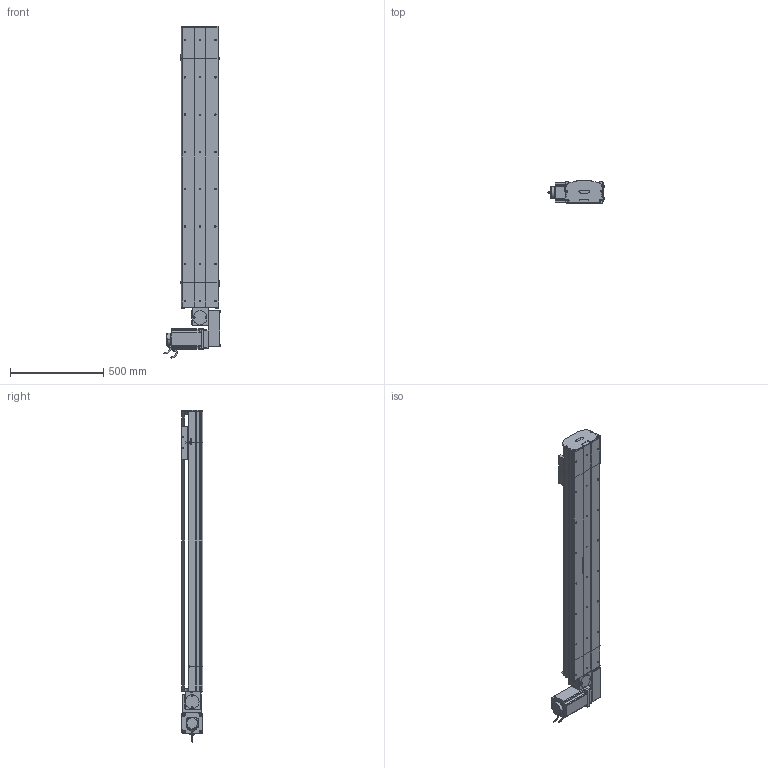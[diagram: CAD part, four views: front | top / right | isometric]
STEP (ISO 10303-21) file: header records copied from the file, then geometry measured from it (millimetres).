
FILE_DESCRIPTION (( 'STEP AP214' ), '1' );
FILE_NAME ('D20 TBH LH S1200.STEP', '2010-07-01T07:14:01', ( 'Conseil Régional Haute-Normandie' ), ( 'Conseil Régional Haute-Normandie' ), 'SwSTEP 2.0', 'SolidWorks 2010', '' );
FILE_SCHEMA (( 'AUTOMOTIVE_DESIGN' ));
Length unit declared in the file: millimetre
Products named in the file (40): vis M5 L12_Default; vis M5 L5_Default; couroie_Default; guide D20B; Chariot D20B; vis M5 L25_Default; chariot D20B_Default; vis M8 L12_Default; Renvoi LH D20_Default; clavette; vis M5 L70_Default; Plaque racord D20LH_Default; Moteur motionking 110BLDC170A-640x; Conecteur2_Default; codeur 110BLDC170A-630x; Conecteur_Default; corps 110BLDC170A-630x; avant 110BLDC170A-630x; corp D20 S1200_Default; Course B L1200_Default; D20 TBH LH S1200; tail D20_Default; rail + couroie  D20 S1200; couvercle D20 S1200_Default; plaque de  bout tail D20_Default; poulie tail D20_Default; corpl tail D20_Default; tete d''axe poulie D20B; couvercle tail D20_Default; Couroie tail D20_Default; head LH_Default; rail tail D20; vis M5 L8 90°_Default; poulie head D20_Default; couvercle head D20_Default; rail head D20; corpl head D20_Default; cache D20_Default; cache arbre D20_Default; plaque de  bout head D20B LH_Default
Assembly tree (71 placements, depth 4):
  D20 TBH LH S1200
    Course B L1200_Default
      rail + couroie  D20 S1200
      couvercle D20 S1200_Default
      corp D20 S1200_Default
    chariot D20B_Default
      Chariot D20B
      vis M5 L12_Default  x4
      guide D20B  x2
    tail D20_Default
      vis M5 L8 90°_Default  x2
      Couroie tail D20_Default
      vis M5 L12_Default  x4
      couvercle tail D20_Default
      plaque de  bout tail D20_Default
      vis M5 L25_Default  x2
      corpl tail D20_Default
      tete d''axe poulie D20B
      rail tail D20
      poulie tail D20_Default
    head LH_Default
      corpl head D20_Default
      vis M5 L12_Default  x10
      Plaque racord D20LH_Default
      vis M5 L5_Default  x4
      vis M5 L70_Default  x4
      vis M8 L12_Default  x4
      Moteur motionking 110BLDC170A-640x
        corps 110BLDC170A-630x
        avant 110BLDC170A-630x
        Conecteur_Default
        Conecteur2_Default
        clavette
        codeur 110BLDC170A-630x
      cache D20_Default  x2
      couroie_Default
      vis M5 L25_Default  x2
      Renvoi LH D20_Default
      plaque de  bout head D20B LH_Default
      rail head D20
      couvercle head D20_Default
      poulie head D20_Default
      cache arbre D20_Default
Bounding box: 304.2 x 115.7 x 1780 mm (x, y, z)
Volume: 14819115.8 mm3; surface area: 3452083.3 mm2
Topology: 95 solids, 95 shells, 2706 faces, 6780 edges, 4371 vertices
Faces by surface type: plane 1613, cylinder 769, bspline 136, cone 99, torus 89
Entity records: 84157 total; most frequent: CARTESIAN_POINT 26735, ORIENTED_EDGE 10216, DIRECTION 9691, EDGE_CURVE 5108, VECTOR 3365, LINE 3365, VERTEX_POINT 3357, AXIS2_PLACEMENT_3D 3163
